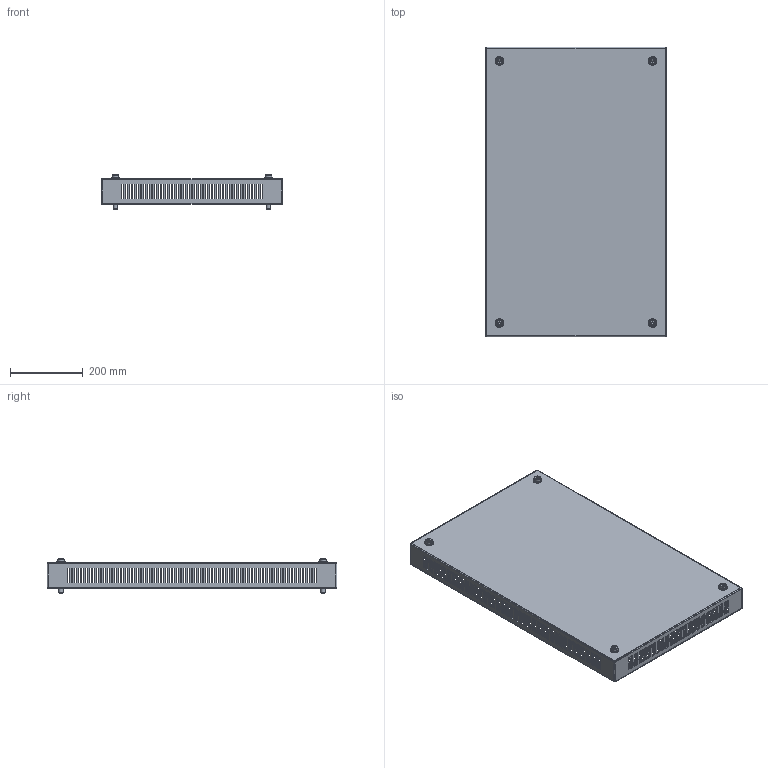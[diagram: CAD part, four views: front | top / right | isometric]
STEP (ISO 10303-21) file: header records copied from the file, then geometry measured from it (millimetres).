
FILE_DESCRIPTION(('STEP AP203'), '1');
FILE_NAME('3320 ÑÁ Ïîòîëî÷íàÿ ïàíåëü', '', ('UNSPECIFIED'), ('UNSPECIFIED'), 'C3D Converter', 'C3D Toolkit', '');
FILE_SCHEMA(('CONFIG_CONTROL_DESIGN'));
Length unit declared in the file: millimetre
Products named in the file (5): 3320.80.50 СБ; 3321; 2329
Assembly tree (13 placements, depth 2):
  3320.80.50 СБ
    3321
    2329  x4
    (unnamed)  x4
    (unnamed)  x4
Bounding box: 497 x 797 x 93.5 mm (x, y, z)
Volume: 916730 mm3; surface area: 1156588.2 mm2
Topology: 13 solids, 13 shells, 1060 faces, 3068 edges, 2040 vertices
Faces by surface type: plane 960, cylinder 56, cone 20, sphere 16, torus 8
Full cylindrical faces by diameter (mm): 6 x4, 10.106 x4, 12 x8, 13.5 x4, 16 x4, 18 x4, 24 x4
Entity records: 33881 total; most frequent: CARTESIAN_POINT 7132, ORIENTED_EDGE 5524, DIRECTION 4798, EDGE_CURVE 2762, LINE 2682, VECTOR 2682, VERTEX_POINT 1834, EDGE_LOOP 1422
